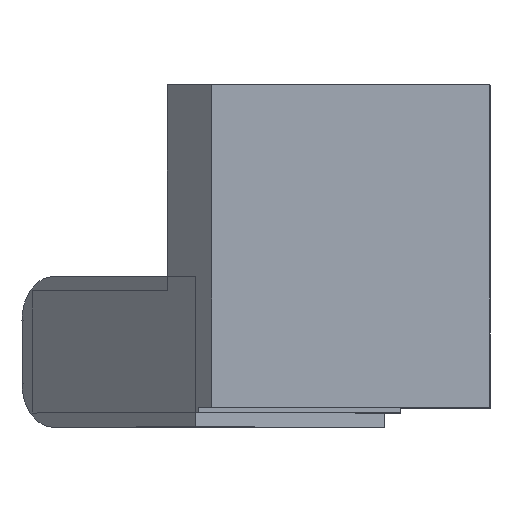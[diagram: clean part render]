
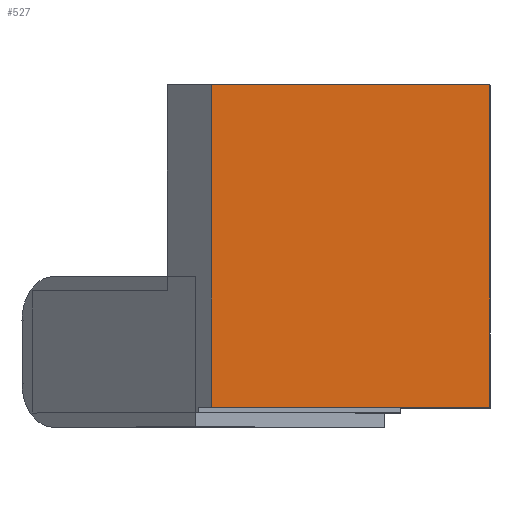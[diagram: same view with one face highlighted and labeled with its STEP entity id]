
A CAD part, top view. The second image highlights one B-rep face of the part: STEP entity #527.
In plain terms, the highlighted planar face has unit normal (0, 0, 1).
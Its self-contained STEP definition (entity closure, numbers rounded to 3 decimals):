
#186 = VERTEX_POINT('',#187);
#187 = CARTESIAN_POINT('',(-10.018,-14.8,50.744));
#193 = EDGE_CURVE('',#186,#194,#196,.T.);
#194 = VERTEX_POINT('',#195);
#195 = CARTESIAN_POINT('',(15.488,-14.8,50.753));
#196 = LINE('',#197,#198);
#197 = CARTESIAN_POINT('',(-14.112,-14.8,50.743));
#198 = VECTOR('',#199,1.);
#199 = DIRECTION('',(1.,0.,0.));
#332 = VERTEX_POINT('',#333);
#333 = CARTESIAN_POINT('',(-10.018,14.8,50.744));
#339 = EDGE_CURVE('',#186,#332,#340,.T.);
#340 = LINE('',#341,#342);
#341 = CARTESIAN_POINT('',(-10.018,0.208,50.744));
#342 = VECTOR('',#343,1.);
#343 = DIRECTION('',(0.,1.,0.));
#385 = VERTEX_POINT('',#386);
#386 = CARTESIAN_POINT('',(15.488,14.8,50.753));
#392 = EDGE_CURVE('',#385,#332,#393,.T.);
#393 = LINE('',#394,#395);
#394 = CARTESIAN_POINT('',(15.488,14.8,50.753));
#395 = VECTOR('',#396,1.);
#396 = DIRECTION('',(-1.,0.,0.));
#510 = EDGE_CURVE('',#194,#385,#511,.T.);
#511 = LINE('',#512,#513);
#512 = CARTESIAN_POINT('',(15.488,-14.8,50.753));
#513 = VECTOR('',#514,1.);
#514 = DIRECTION('',(0.,1.,0.));
#527 = ADVANCED_FACE('',(#528),#534,.T.);
#528 = FACE_BOUND('',#529,.T.);
#529 = EDGE_LOOP('',(#530,#531,#532,#533));
#530 = ORIENTED_EDGE('',*,*,#392,.T.);
#531 = ORIENTED_EDGE('',*,*,#339,.F.);
#532 = ORIENTED_EDGE('',*,*,#193,.T.);
#533 = ORIENTED_EDGE('',*,*,#510,.T.);
#534 = PLANE('',#535);
#535 = AXIS2_PLACEMENT_3D('',#536,#537,#538);
#536 = CARTESIAN_POINT('',(0.688,0.,50.748));
#537 = DIRECTION('',(0.,0.,1.));
#538 = DIRECTION('',(1.,0.,0.));
